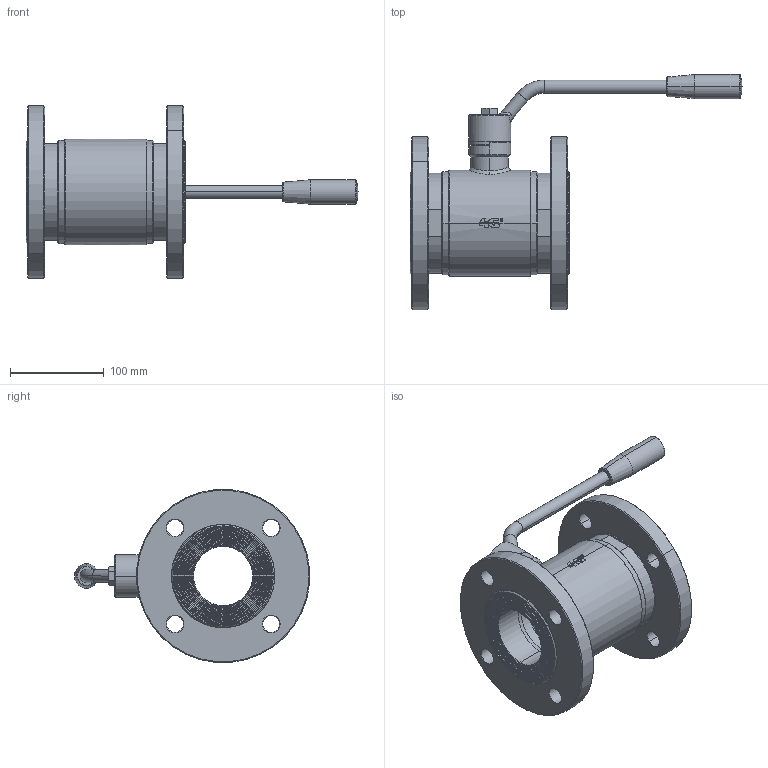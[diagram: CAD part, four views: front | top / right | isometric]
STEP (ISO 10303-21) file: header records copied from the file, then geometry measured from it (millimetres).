
FILE_DESCRIPTION((''),'2;1');
FILE_NAME('13015064410_SW0001','2026-04-29T10:53:41',('tecnico2'),('CDM Tecnoconsulting'),'CREO PARAMETRIC BY PTC INC, 2024063','CREO PARAMETRIC BY PTC INC, 2024063','');
FILE_SCHEMA(('CONFIG_CONTROL_DESIGN'));
Products named in the file (1): 13015064410_SW0001
Bounding box: 354 x 250.65 x 184.3 mm (x, y, z)
Volume: 1811138 mm3; surface area: 271841.6 mm2
Topology: 1 solids, 1 shells, 948 faces, 2513 edges, 1594 vertices
Faces by surface type: plane 395, cylinder 161, cone 133, extrusion 109, torus 76, bspline 60, sphere 14
Entity records: 47533 total; most frequent: CARTESIAN_POINT 24822, ORIENTED_EDGE 4990, DIRECTION 4236, EDGE_CURVE 2495, VERTEX_POINT 1594, AXIS2_PLACEMENT_3D 1472, VECTOR 1292, LINE 1183
